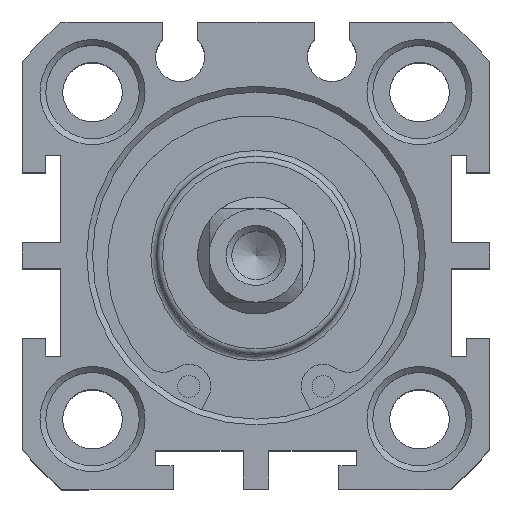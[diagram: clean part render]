
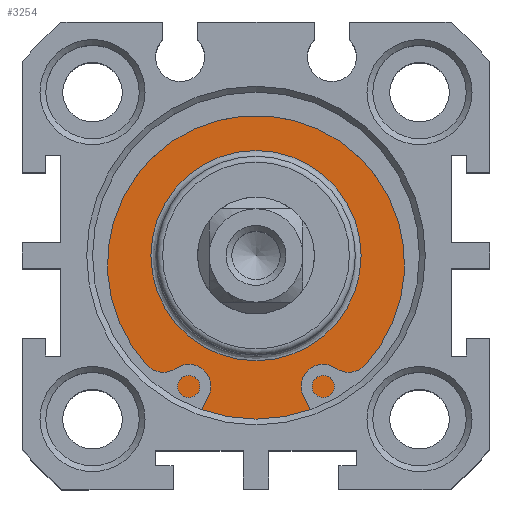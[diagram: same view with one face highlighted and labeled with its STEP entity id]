
A CAD part, top view. The second image highlights one B-rep face of the part: STEP entity #3254.
In plain terms, the highlighted planar face has unit normal (0, 0, 1).
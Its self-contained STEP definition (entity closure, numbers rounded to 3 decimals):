
#3203=CARTESIAN_POINT('',(-2.524,11.284,38.3));
#3204=VERTEX_POINT('',#3203);
#3205=CARTESIAN_POINT('',(-2.524,2.284,38.3));
#3206=DIRECTION('',(0.0,0.0,1.0));
#3207=DIRECTION('',(0.0,-1.0,0.0));
#3208=AXIS2_PLACEMENT_3D('',#3205,#3206,#3207);
#3209=CIRCLE('',#3208,9.);
#3210=EDGE_CURVE('',#3204,#3204,#3209,.T.);
#3235=CARTESIAN_POINT('',(-2.524,13.534,38.3));
#3236=DIRECTION('',(0.0,0.0,1.0));
#3237=DIRECTION('',(1.0,0.0,0.0));
#3238=AXIS2_PLACEMENT_3D('',#3235,#3236,#3237);
#3239=PLANE('',#3238);
#3240=CARTESIAN_POINT('',(-2.524,16.284,38.3));
#3241=VERTEX_POINT('',#3240);
#3242=CARTESIAN_POINT('',(-2.524,2.284,38.3));
#3243=DIRECTION('',(0.0,0.0,-1.0));
#3244=DIRECTION('',(0.0,1.0,0.0));
#3245=AXIS2_PLACEMENT_3D('',#3242,#3243,#3244);
#3246=CIRCLE('',#3245,14.);
#3247=EDGE_CURVE('',#3241,#3241,#3246,.T.);
#3248=ORIENTED_EDGE('',*,*,#3247,.F.);
#3249=EDGE_LOOP('',(#3248));
#3250=FACE_OUTER_BOUND('',#3249,.T.);
#3251=ORIENTED_EDGE('',*,*,#3210,.F.);
#3252=EDGE_LOOP('',(#3251));
#3253=FACE_BOUND('',#3252,.T.);
#3254=ADVANCED_FACE('',(#3250,#3253),#3239,.T.);
